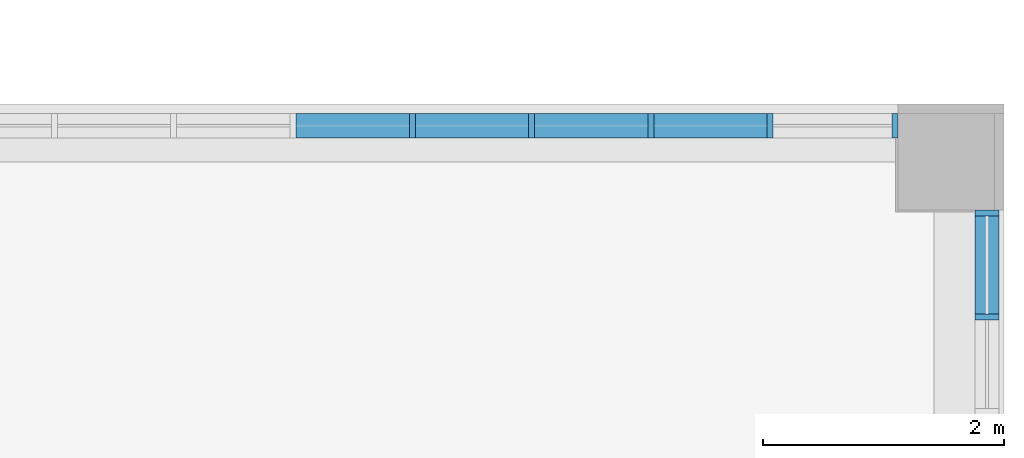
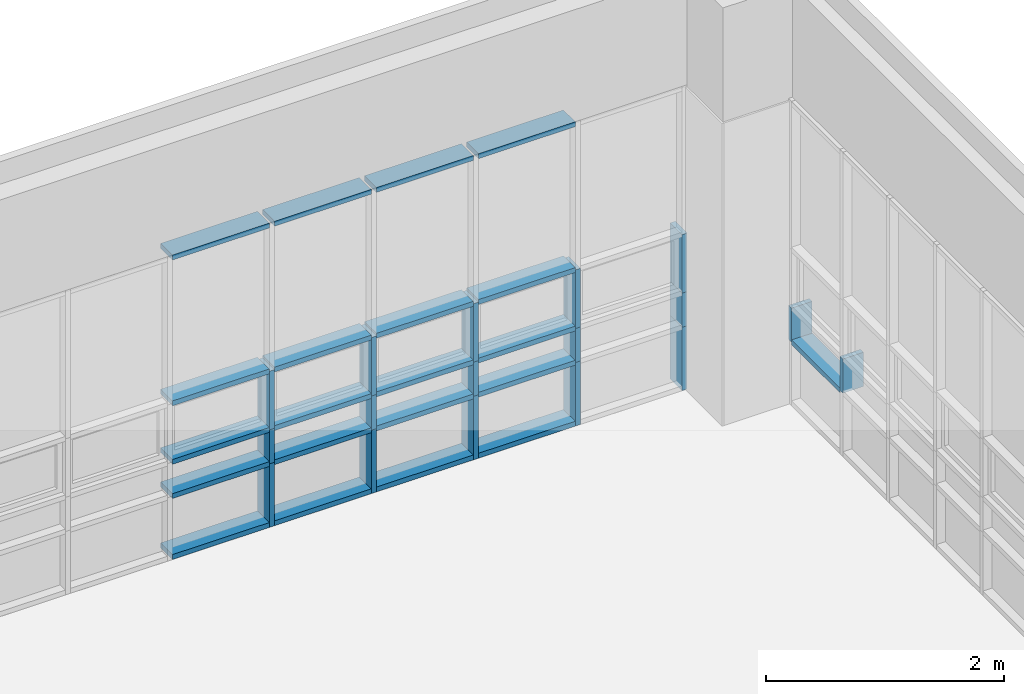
# One storey, part 28 of 74: 38 members, 2 elements without a shape of their own.
"""IFC2X3 building model written with IfcOpenShell, lengths in millimetres."""

from ifc_helpers import new_model, entity, si_unit, converted_unit, derived_unit, direction, frame, origin, origin_2d_with_axis, place, context, subcontext, project, spatial, rectangle, extrude, source, transform, mapped, material, type_object, type_shapes, element, aggregate, save


model = new_model("IFC2X3")

# Units and contexts
model_context = context("Model", 3, precision=0.01, world=origin(), true_north=direction((6.123031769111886e-17, 1.0)))
body_context = subcontext(model_context, "Body", "Model", "MODEL_VIEW")
ifc_project = project(units=[si_unit("LENGTHUNIT", "METRE", prefix="MILLI"), si_unit("AREAUNIT", "SQUARE_METRE"), si_unit("VOLUMEUNIT", "CUBIC_METRE"), converted_unit("PLANEANGLEUNIT", "DEGREE", entity("IfcRatioMeasure", 0.017453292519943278), si_unit("PLANEANGLEUNIT", "RADIAN"), dimensions=[0, 0, 0, 0, 0, 0, 0]), si_unit("MASSUNIT", "GRAM", prefix="KILO"), derived_unit("MASSDENSITYUNIT", [(si_unit("MASSUNIT", "GRAM", prefix="KILO"), 1), (si_unit("LENGTHUNIT", "METRE"), -3)]), derived_unit("MOMENTOFINERTIAUNIT", [(si_unit("LENGTHUNIT", "METRE"), 4)]), si_unit("TIMEUNIT", "SECOND"), si_unit("FREQUENCYUNIT", "HERTZ"), si_unit("THERMODYNAMICTEMPERATUREUNIT", "DEGREE_CELSIUS"), derived_unit("THERMALTRANSMITTANCEUNIT", [(si_unit("MASSUNIT", "GRAM", prefix="KILO"), 1), (si_unit("THERMODYNAMICTEMPERATUREUNIT", "KELVIN"), -1), (si_unit("TIMEUNIT", "SECOND"), -3)]), derived_unit("VOLUMETRICFLOWRATEUNIT", [(si_unit("LENGTHUNIT", "METRE"), 3), (si_unit("TIMEUNIT", "SECOND"), -1)]), derived_unit("MASSFLOWRATEUNIT", [(si_unit("MASSUNIT", "GRAM", prefix="KILO"), 1), (si_unit("TIMEUNIT", "SECOND"), -1)]), derived_unit("ROTATIONALFREQUENCYUNIT", [(si_unit("TIMEUNIT", "SECOND"), -1)]), si_unit("ELECTRICCURRENTUNIT", "AMPERE"), si_unit("ELECTRICVOLTAGEUNIT", "VOLT"), si_unit("POWERUNIT", "WATT"), si_unit("FORCEUNIT", "NEWTON", prefix="KILO"), si_unit("ILLUMINANCEUNIT", "LUX"), si_unit("LUMINOUSFLUXUNIT", "LUMEN"), si_unit("LUMINOUSINTENSITYUNIT", "CANDELA"), derived_unit("USERDEFINED", [(si_unit("MASSUNIT", "GRAM", prefix="KILO"), -1), (si_unit("LENGTHUNIT", "METRE"), -2), (si_unit("TIMEUNIT", "SECOND"), 3), (si_unit("LUMINOUSFLUXUNIT", "LUMEN"), 1)]), derived_unit("SOUNDPOWERUNIT", [(si_unit("MASSUNIT", "GRAM", prefix="KILO"), 1), (si_unit("LENGTHUNIT", "METRE"), 2), (si_unit("TIMEUNIT", "SECOND"), -3)]), derived_unit("SOUNDPRESSUREUNIT", [(si_unit("MASSUNIT", "GRAM", prefix="KILO"), 1), (si_unit("LENGTHUNIT", "METRE"), -1), (si_unit("TIMEUNIT", "SECOND"), -2)]), derived_unit("LINEARVELOCITYUNIT", [(si_unit("LENGTHUNIT", "METRE"), 1), (si_unit("TIMEUNIT", "SECOND"), -1)]), si_unit("PRESSUREUNIT", "PASCAL"), derived_unit("USERDEFINED", [(si_unit("LENGTHUNIT", "METRE"), -2), (si_unit("MASSUNIT", "GRAM", prefix="KILO"), 1), (si_unit("TIMEUNIT", "SECOND"), -2)]), derived_unit("LINEARFORCEUNIT", [(si_unit("MASSUNIT", "GRAM", prefix="KILO"), 1), (si_unit("LENGTHUNIT", "METRE"), 1), (si_unit("TIMEUNIT", "SECOND"), -2), (si_unit("LENGTHUNIT", "METRE"), -1)]), derived_unit("PLANARFORCEUNIT", [(si_unit("MASSUNIT", "GRAM", prefix="KILO"), 1), (si_unit("LENGTHUNIT", "METRE"), 1), (si_unit("TIMEUNIT", "SECOND"), -2), (si_unit("LENGTHUNIT", "METRE"), -2)])], contexts=[model_context])

# Site, building, storey
site_placement = place(None, frame((-14167.972527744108, -657.2125860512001, 0.0)))
site = spatial("IfcSite", under=ifc_project, at=site_placement, Name="Default", CompositionType="ELEMENT")
building_placement = place(site_placement, origin())
building = spatial("IfcBuilding", under=site, at=building_placement, Name="Sample Building", CompositionType="ELEMENT")
storey_placement = place(building_placement, frame((0.0, 0.0, 4800.0)))
storey = spatial("IfcBuildingStorey", under=building, at=storey_placement, Name="지상 2층", CompositionType="ELEMENT", Elevation=4800.000000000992)

# Curtain wall, members
curtain_wall_type = type_object("IfcCurtainWallType", Name="커튼월:CW112-스테인리스 스틸 커튼월", PredefinedType="NOTDEFINED")
curtain_wall_1_placement = place(storey_placement, frame((0.0, 0.0, -4800.0)))
curtain_wall_1 = element("IfcCurtainWall", 1, at=curtain_wall_1_placement, inside=storey, type_object=curtain_wall_type, Name="커튼월:CW112-스테인리스 스틸 커튼월", ObjectType="커튼월:CW112-스테인리스 스틸 커튼월")
ifc_material = material(Name="<Unnamed>")
member_type_1 = type_object("IfcMemberType", Name="직사각형 멀리언:CW200-직사각형 멀리언 50x200mm", PredefinedType="MULLION", material=ifc_material)
shared_shape_1 = source(origin(), body_context, "Body", "SweptSolid", [
    extrude(rectangle(XDim=200.0, YDim=50.0, at=origin_2d_with_axis()), frame((0.0, 0.0, -650.0), z_axis=(0.0, 0.0, 1.0), x_axis=(0.0, -1.0, 0.0)), (0.0, 0.0, 1.0), 650.0000000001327),
])
type_shapes(member_type_1, [shared_shape_1])
member_1_placement = place(curtain_wall_1_placement, frame((49608.65776964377, 29157.212295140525, 4880.0), z_axis=(0.0, 0.0, -1.0), x_axis=(-1.0, 0.0, 0.0)))
member_1 = element("IfcMember", 2, at=member_1_placement, type_object=member_type_1, material=ifc_material, Name="직사각형 멀리언:CW200-직사각형 멀리언 50x200mm", ObjectType="직사각형 멀리언:CW200-직사각형 멀리언 50x200mm", context=body_context, shape_type="MappedRepresentation", body=[
    mapped(shared_shape_1, transform((0.0, 0.0, 0.0), scale=1.0)),
])
member_2_placement = place(curtain_wall_1_placement, frame((48619.768880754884, 29157.212295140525, 4880.0), z_axis=(0.0, 0.0, -1.0), x_axis=(-1.0, 0.0, 0.0)))
member_2 = element("IfcMember", 3, at=member_2_placement, type_object=member_type_1, material=ifc_material, Name="직사각형 멀리언:CW200-직사각형 멀리언 50x200mm", ObjectType="직사각형 멀리언:CW200-직사각형 멀리언 50x200mm", context=body_context, shape_type="MappedRepresentation", body=[
    mapped(shared_shape_1, transform((0.0, 0.0, 0.0), scale=1.0)),
])
member_3_placement = place(curtain_wall_1_placement, frame((47630.87999186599, 29157.21229514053, 4880.0), z_axis=(0.0, 0.0, -1.0), x_axis=(-1.0, 0.0, 0.0)))
member_3 = element("IfcMember", 4, at=member_3_placement, type_object=member_type_1, material=ifc_material, Name="직사각형 멀리언:CW200-직사각형 멀리언 50x200mm", ObjectType="직사각형 멀리언:CW200-직사각형 멀리언 50x200mm", context=body_context, shape_type="MappedRepresentation", body=[
    mapped(shared_shape_1, transform((0.0, 0.0, 0.0), scale=1.0)),
])
member_4_placement = place(curtain_wall_1_placement, frame((46641.99110297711, 29157.212295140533, 4880.0), z_axis=(0.0, 0.0, -1.0), x_axis=(-1.0, 0.0, 0.0)))
member_4 = element("IfcMember", 5, at=member_4_placement, type_object=member_type_1, material=ifc_material, Name="직사각형 멀리언:CW200-직사각형 멀리언 50x200mm", ObjectType="직사각형 멀리언:CW200-직사각형 멀리언 50x200mm", context=body_context, shape_type="MappedRepresentation", body=[
    mapped(shared_shape_1, transform((0.0, 0.0, 0.0), scale=1.0)),
])
member_type_2 = type_object("IfcMemberType", Name="직사각형 멀리언:CW200-직사각형 멀리언 50x200mm", PredefinedType="MULLION", material=ifc_material)
shared_shape_2 = source(origin(), body_context, "Body", "SweptSolid", [
    extrude(rectangle(XDim=200.0, YDim=50.0, at=origin_2d_with_axis()), frame((-25.0, 0.0, -600.0), z_axis=(0.0, 0.0, 1.0), x_axis=(0.0, -1.0, 0.0)), (0.0, 0.0, 1.0), 600.0),
])
type_shapes(member_type_2, [shared_shape_2])
member_5_placement = place(curtain_wall_1_placement, frame((50667.981214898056, 29157.212295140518, 6480.0)))
member_5 = element("IfcMember", 6, at=member_5_placement, type_object=member_type_2, material=ifc_material, Name="직사각형 멀리언:CW200-직사각형 멀리언 50x200mm", ObjectType="직사각형 멀리언:CW200-직사각형 멀리언 50x200mm", context=body_context, shape_type="MappedRepresentation", body=[
    mapped(shared_shape_2, transform((0.0, 0.0, 0.0), scale=1.0)),
])
member_type_3 = type_object("IfcMemberType", Name="직사각형 멀리언:CW200-직사각형 멀리언 50x200mm", PredefinedType="MULLION", material=ifc_material)
shared_shape_3 = source(origin(), body_context, "Body", "SweptSolid", [
    extrude(rectangle(XDim=200.0, YDim=50.0, at=origin_2d_with_axis()), frame((-25.0, 0.0, -350.0), z_axis=(0.0, 0.0, 1.0), x_axis=(0.0, -1.0, 0.0)), (0.0, 0.0, 1.0), 349.9999999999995),
])
type_shapes(member_type_3, [shared_shape_3])
member_6_placement = place(curtain_wall_1_placement, frame((50667.981214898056, 29157.212295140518, 5880.0)))
member_6 = element("IfcMember", 7, at=member_6_placement, type_object=member_type_3, material=ifc_material, Name="직사각형 멀리언:CW200-직사각형 멀리언 50x200mm", ObjectType="직사각형 멀리언:CW200-직사각형 멀리언 50x200mm", context=body_context, shape_type="MappedRepresentation", body=[
    mapped(shared_shape_3, transform((0.0, 0.0, 0.0), scale=1.0)),
])
member_type_4 = type_object("IfcMemberType", Name="직사각형 멀리언:CW200-직사각형 멀리언 50x200mm", PredefinedType="MULLION", material=ifc_material)
shared_shape_4 = source(origin(), body_context, "Body", "SweptSolid", [
    extrude(rectangle(XDim=200.0, YDim=50.0, at=origin_2d_with_axis()), frame((0.0, 0.0, -600.0), z_axis=(0.0, 0.0, 1.0), x_axis=(0.0, -1.0, 0.0)), (0.0, 0.0, 1.0), 600.0),
])
type_shapes(member_type_4, [shared_shape_4])
member_7_placement = place(curtain_wall_1_placement, frame((49608.65776964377, 29157.212295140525, 5880.0), z_axis=(0.0, 0.0, -1.0), x_axis=(-1.0, 0.0, 0.0)))
member_7 = element("IfcMember", 8, at=member_7_placement, type_object=member_type_4, material=ifc_material, Name="직사각형 멀리언:CW200-직사각형 멀리언 50x200mm", ObjectType="직사각형 멀리언:CW200-직사각형 멀리언 50x200mm", context=body_context, shape_type="MappedRepresentation", body=[
    mapped(shared_shape_4, transform((0.0, 0.0, 0.0), scale=1.0)),
])
member_8_placement = place(curtain_wall_1_placement, frame((48619.768880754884, 29157.212295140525, 5880.0), z_axis=(0.0, 0.0, -1.0), x_axis=(-1.0, 0.0, 0.0)))
member_8 = element("IfcMember", 9, at=member_8_placement, type_object=member_type_4, material=ifc_material, Name="직사각형 멀리언:CW200-직사각형 멀리언 50x200mm", ObjectType="직사각형 멀리언:CW200-직사각형 멀리언 50x200mm", context=body_context, shape_type="MappedRepresentation", body=[
    mapped(shared_shape_4, transform((0.0, 0.0, 0.0), scale=1.0)),
])
member_9_placement = place(curtain_wall_1_placement, frame((47630.87999186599, 29157.21229514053, 5880.0), z_axis=(0.0, 0.0, -1.0), x_axis=(-1.0, 0.0, 0.0)))
member_9 = element("IfcMember", 10, at=member_9_placement, type_object=member_type_4, material=ifc_material, Name="직사각형 멀리언:CW200-직사각형 멀리언 50x200mm", ObjectType="직사각형 멀리언:CW200-직사각형 멀리언 50x200mm", context=body_context, shape_type="MappedRepresentation", body=[
    mapped(shared_shape_4, transform((0.0, 0.0, 0.0), scale=1.0)),
])
member_10_placement = place(curtain_wall_1_placement, frame((46641.99110297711, 29157.212295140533, 5880.0), z_axis=(0.0, 0.0, -1.0), x_axis=(-1.0, 0.0, 0.0)))
member_10 = element("IfcMember", 11, at=member_10_placement, type_object=member_type_4, material=ifc_material, Name="직사각형 멀리언:CW200-직사각형 멀리언 50x200mm", ObjectType="직사각형 멀리언:CW200-직사각형 멀리언 50x200mm", context=body_context, shape_type="MappedRepresentation", body=[
    mapped(shared_shape_4, transform((0.0, 0.0, 0.0), scale=1.0)),
])

# Curtain wall, member
curtain_wall_2_placement = place(storey_placement, frame((0.0, 0.0, -4800.0)))
curtain_wall_2 = element("IfcCurtainWall", 12, at=curtain_wall_2_placement, inside=storey, type_object=curtain_wall_type, Name="커튼월:CW112-스테인리스 스틸 커튼월", ObjectType="커튼월:CW112-스테인리스 스틸 커튼월")
member_type_5 = type_object("IfcMemberType", Name="직사각형 멀리언:CW200-직사각형 멀리언 50x200mm", PredefinedType="MULLION", material=ifc_material)
shared_shape_5 = source(origin(), body_context, "Body", "SweptSolid", [
    extrude(rectangle(XDim=200.0, YDim=50.0, at=origin_2d_with_axis()), frame((-25.0, 0.0, -350.0), z_axis=(0.0, 0.0, 1.0), x_axis=(0.0, -1.0, 0.0)), (0.0, 0.0, 1.0), 349.9999999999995),
])
type_shapes(member_type_5, [shared_shape_5])
member_11_placement = place(curtain_wall_2_placement, frame((51405.46382893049, 28457.212704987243, 5530.0), z_axis=(0.0, 0.0, -1.0), x_axis=(0.0, 1.0, 0.0)))
member_11 = element("IfcMember", 13, at=member_11_placement, type_object=member_type_5, material=ifc_material, Name="직사각형 멀리언:CW200-직사각형 멀리언 50x200mm", ObjectType="직사각형 멀리언:CW200-직사각형 멀리언 50x200mm", context=body_context, shape_type="MappedRepresentation", body=[
    mapped(shared_shape_5, transform((0.0, 0.0, 0.0), scale=1.0)),
])

# Member
member_type_6 = type_object("IfcMemberType", Name="직사각형 멀리언:CW200-직사각형 멀리언 50x200mm", PredefinedType="MULLION", material=ifc_material)
shared_shape_6 = source(origin(), body_context, "Body", "SweptSolid", [
    extrude(rectangle(XDim=200.0, YDim=50.0, at=origin_2d_with_axis()), frame((-25.0, 0.0, -650.0), z_axis=(0.0, 0.0, 1.0), x_axis=(0.0, -1.0, 0.0)), (0.0, 0.0, 1.0), 650.0000000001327),
])
type_shapes(member_type_6, [shared_shape_6])
member_12_placement = place(curtain_wall_1_placement, frame((50667.981214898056, 29157.212295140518, 5530.0)))
member_12 = element("IfcMember", 14, at=member_12_placement, type_object=member_type_6, material=ifc_material, Name="직사각형 멀리언:CW200-직사각형 멀리언 50x200mm", ObjectType="직사각형 멀리언:CW200-직사각형 멀리언 50x200mm", context=body_context, shape_type="MappedRepresentation", body=[
    mapped(shared_shape_6, transform((0.0, 0.0, 0.0), scale=1.0)),
])

member_type_7 = type_object("IfcMemberType", Name="직사각형 멀리언:CW200-직사각형 멀리언 50x200mm", PredefinedType="MULLION", material=ifc_material)
shared_shape_7 = source(origin(), body_context, "Body", "SweptSolid", [
    extrude(rectangle(XDim=200.0, YDim=50.0, at=origin_2d_with_axis()), frame((0.0, 0.0, -350.0), z_axis=(0.0, 0.0, 1.0), x_axis=(0.0, -1.0, 0.0)), (0.0, 0.0, 1.0), 349.9999999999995),
])
type_shapes(member_type_7, [shared_shape_7])
member_13_placement = place(curtain_wall_2_placement, frame((51405.46382893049, 27572.21227523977, 5530.0), z_axis=(0.0, 0.0, -1.0), x_axis=(0.0, 1.0, 0.0)))
member_13 = element("IfcMember", 15, at=member_13_placement, type_object=member_type_7, material=ifc_material, Name="직사각형 멀리언:CW200-직사각형 멀리언 50x200mm", ObjectType="직사각형 멀리언:CW200-직사각형 멀리언 50x200mm", context=body_context, shape_type="MappedRepresentation", body=[
    mapped(shared_shape_7, transform((0.0, 0.0, 0.0), scale=1.0)),
])

member_14_placement = place(curtain_wall_1_placement, frame((49608.65776964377, 29157.212295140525, 5530.0), z_axis=(0.0, 0.0, -1.0), x_axis=(-1.0, 0.0, 0.0)))
member_14 = element("IfcMember", 16, at=member_14_placement, type_object=member_type_7, material=ifc_material, Name="직사각형 멀리언:CW200-직사각형 멀리언 50x200mm", ObjectType="직사각형 멀리언:CW200-직사각형 멀리언 50x200mm", context=body_context, shape_type="MappedRepresentation", body=[
    mapped(shared_shape_7, transform((0.0, 0.0, 0.0), scale=1.0)),
])

member_15_placement = place(curtain_wall_1_placement, frame((48619.768880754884, 29157.212295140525, 5530.0), z_axis=(0.0, 0.0, -1.0), x_axis=(-1.0, 0.0, 0.0)))
member_15 = element("IfcMember", 17, at=member_15_placement, type_object=member_type_7, material=ifc_material, Name="직사각형 멀리언:CW200-직사각형 멀리언 50x200mm", ObjectType="직사각형 멀리언:CW200-직사각형 멀리언 50x200mm", context=body_context, shape_type="MappedRepresentation", body=[
    mapped(shared_shape_7, transform((0.0, 0.0, 0.0), scale=1.0)),
])

member_16_placement = place(curtain_wall_1_placement, frame((47630.87999186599, 29157.21229514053, 5530.0), z_axis=(0.0, 0.0, -1.0), x_axis=(-1.0, 0.0, 0.0)))
member_16 = element("IfcMember", 18, at=member_16_placement, type_object=member_type_7, material=ifc_material, Name="직사각형 멀리언:CW200-직사각형 멀리언 50x200mm", ObjectType="직사각형 멀리언:CW200-직사각형 멀리언 50x200mm", context=body_context, shape_type="MappedRepresentation", body=[
    mapped(shared_shape_7, transform((0.0, 0.0, 0.0), scale=1.0)),
])

member_17_placement = place(curtain_wall_1_placement, frame((46641.99110297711, 29157.212295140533, 5530.0), z_axis=(0.0, 0.0, -1.0), x_axis=(-1.0, 0.0, 0.0)))
member_17 = element("IfcMember", 19, at=member_17_placement, type_object=member_type_7, material=ifc_material, Name="직사각형 멀리언:CW200-직사각형 멀리언 50x200mm", ObjectType="직사각형 멀리언:CW200-직사각형 멀리언 50x200mm", context=body_context, shape_type="MappedRepresentation", body=[
    mapped(shared_shape_7, transform((0.0, 0.0, 0.0), scale=1.0)),
])

member_type_8 = type_object("IfcMemberType", Name="직사각형 멀리언:CW200-직사각형 멀리언 50x200mm", PredefinedType="MULLION", material=ifc_material)
shared_shape_8 = source(origin(), body_context, "Body", "SweptSolid", [
    extrude(rectangle(XDim=200.0, YDim=50.0, at=origin_2d_with_axis()), frame((0.0, 0.0, -810.0004297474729), z_axis=(0.0, 0.0, 1.0), x_axis=(0.0, -1.0, 0.0)), (0.0, 0.0, 1.0), 810.0004297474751),
])
type_shapes(member_type_8, [shared_shape_8])
member_18_placement = place(curtain_wall_2_placement, frame((51405.46382893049, 28407.212704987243, 5530.0), z_axis=(0.0, 1.0, 0.0), x_axis=(0.0, 0.0, 1.0)))
member_18 = element("IfcMember", 20, at=member_18_placement, type_object=member_type_8, material=ifc_material, Name="직사각형 멀리언:CW200-직사각형 멀리언 50x200mm", ObjectType="직사각형 멀리언:CW200-직사각형 멀리언 50x200mm", context=body_context, shape_type="MappedRepresentation", body=[
    mapped(shared_shape_8, transform((0.0, 0.0, 0.0), scale=1.0)),
])

aggregate(curtain_wall_2, [member_11, member_18, member_13])

member_type_9 = type_object("IfcMemberType", Name="직사각형 멀리언:CW200-직사각형 멀리언 50x200mm", PredefinedType="MULLION", material=ifc_material)
shared_shape_9 = source(origin(), body_context, "Body", "SweptSolid", [
    extrude(rectangle(XDim=200.0, YDim=50.0, at=origin_2d_with_axis()), frame((-25.0, 0.0, -938.8888888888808), z_axis=(0.0, 0.0, 1.0), x_axis=(0.0, -1.0, 0.0)), (0.0, 0.0, 1.0), 938.888888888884),
])
type_shapes(member_type_9, [shared_shape_9])
member_19_placement = place(curtain_wall_1_placement, frame((49583.65776964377, 29157.212295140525, 4880.0), z_axis=(1.0, 0.0, 0.0), x_axis=(0.0, 0.0, -1.0)))
member_19 = element("IfcMember", 21, at=member_19_placement, type_object=member_type_9, material=ifc_material, Name="직사각형 멀리언:CW200-직사각형 멀리언 50x200mm", ObjectType="직사각형 멀리언:CW200-직사각형 멀리언 50x200mm", context=body_context, shape_type="MappedRepresentation", body=[
    mapped(shared_shape_9, transform((0.0, 0.0, 0.0), scale=1.0)),
])

member_20_placement = place(curtain_wall_1_placement, frame((48594.768880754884, 29157.212295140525, 4880.0), z_axis=(1.0, 0.0, 0.0), x_axis=(0.0, 0.0, -1.0)))
member_20 = element("IfcMember", 22, at=member_20_placement, type_object=member_type_9, material=ifc_material, Name="직사각형 멀리언:CW200-직사각형 멀리언 50x200mm", ObjectType="직사각형 멀리언:CW200-직사각형 멀리언 50x200mm", context=body_context, shape_type="MappedRepresentation", body=[
    mapped(shared_shape_9, transform((0.0, 0.0, 0.0), scale=1.0)),
])

member_21_placement = place(curtain_wall_1_placement, frame((47605.87999186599, 29157.21229514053, 4880.0), z_axis=(1.0, 0.0, 0.0), x_axis=(0.0, 0.0, -1.0)))
member_21 = element("IfcMember", 23, at=member_21_placement, type_object=member_type_9, material=ifc_material, Name="직사각형 멀리언:CW200-직사각형 멀리언 50x200mm", ObjectType="직사각형 멀리언:CW200-직사각형 멀리언 50x200mm", context=body_context, shape_type="MappedRepresentation", body=[
    mapped(shared_shape_9, transform((0.0, 0.0, 0.0), scale=1.0)),
])

member_22_placement = place(curtain_wall_1_placement, frame((46616.9911029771, 29157.212295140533, 4880.0), z_axis=(1.0, 0.0, 0.0), x_axis=(0.0, 0.0, -1.0)))
member_22 = element("IfcMember", 24, at=member_22_placement, type_object=member_type_9, material=ifc_material, Name="직사각형 멀리언:CW200-직사각형 멀리언 50x200mm", ObjectType="직사각형 멀리언:CW200-직사각형 멀리언 50x200mm", context=body_context, shape_type="MappedRepresentation", body=[
    mapped(shared_shape_9, transform((0.0, 0.0, 0.0), scale=1.0)),
])

member_type_10 = type_object("IfcMemberType", Name="직사각형 멀리언:CW200-직사각형 멀리언 50x200mm", PredefinedType="MULLION", material=ifc_material)
shared_shape_10 = source(origin(), body_context, "Body", "SweptSolid", [
    extrude(rectangle(XDim=200.0, YDim=50.0, at=origin_2d_with_axis()), frame((0.0, 0.0, -938.8888888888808), z_axis=(0.0, 0.0, 1.0), x_axis=(0.0, -1.0, 0.0)), (0.0, 0.0, 1.0), 938.888888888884),
])
type_shapes(member_type_10, [shared_shape_10])
member_23_placement = place(curtain_wall_1_placement, frame((48644.76888075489, 29157.212295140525, 6480.0), z_axis=(-1.0, 0.0, 0.0), x_axis=(0.0, 0.0, 1.0)))
member_23 = element("IfcMember", 25, at=member_23_placement, type_object=member_type_10, material=ifc_material, Name="직사각형 멀리언:CW200-직사각형 멀리언 50x200mm", ObjectType="직사각형 멀리언:CW200-직사각형 멀리언 50x200mm", context=body_context, shape_type="MappedRepresentation", body=[
    mapped(shared_shape_10, transform((0.0, 0.0, 0.0), scale=1.0)),
])

member_24_placement = place(curtain_wall_1_placement, frame((47655.87999186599, 29157.21229514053, 6480.0), z_axis=(-1.0, 0.0, 0.0), x_axis=(0.0, 0.0, 1.0)))
member_24 = element("IfcMember", 26, at=member_24_placement, type_object=member_type_10, material=ifc_material, Name="직사각형 멀리언:CW200-직사각형 멀리언 50x200mm", ObjectType="직사각형 멀리언:CW200-직사각형 멀리언 50x200mm", context=body_context, shape_type="MappedRepresentation", body=[
    mapped(shared_shape_10, transform((0.0, 0.0, 0.0), scale=1.0)),
])

member_25_placement = place(curtain_wall_1_placement, frame((46666.99110297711, 29157.212295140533, 6480.0), z_axis=(-1.0, 0.0, 0.0), x_axis=(0.0, 0.0, 1.0)))
member_25 = element("IfcMember", 27, at=member_25_placement, type_object=member_type_10, material=ifc_material, Name="직사각형 멀리언:CW200-직사각형 멀리언 50x200mm", ObjectType="직사각형 멀리언:CW200-직사각형 멀리언 50x200mm", context=body_context, shape_type="MappedRepresentation", body=[
    mapped(shared_shape_10, transform((0.0, 0.0, 0.0), scale=1.0)),
])

member_26_placement = place(curtain_wall_1_placement, frame((45678.10221408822, 29157.212295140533, 6480.0), z_axis=(-1.0, 0.0, 0.0), x_axis=(0.0, 0.0, 1.0)))
member_26 = element("IfcMember", 28, at=member_26_placement, type_object=member_type_10, material=ifc_material, Name="직사각형 멀리언:CW200-직사각형 멀리언 50x200mm", ObjectType="직사각형 멀리언:CW200-직사각형 멀리언 50x200mm", context=body_context, shape_type="MappedRepresentation", body=[
    mapped(shared_shape_10, transform((0.0, 0.0, 0.0), scale=1.0)),
])

member_27_placement = place(curtain_wall_1_placement, frame((48644.76888075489, 29157.212295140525, 5880.0), z_axis=(-1.0, 0.0, 0.0), x_axis=(0.0, 0.0, 1.0)))
member_27 = element("IfcMember", 29, at=member_27_placement, type_object=member_type_10, material=ifc_material, Name="직사각형 멀리언:CW200-직사각형 멀리언 50x200mm", ObjectType="직사각형 멀리언:CW200-직사각형 멀리언 50x200mm", context=body_context, shape_type="MappedRepresentation", body=[
    mapped(shared_shape_10, transform((0.0, 0.0, 0.0), scale=1.0)),
])

member_28_placement = place(curtain_wall_1_placement, frame((47655.87999186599, 29157.21229514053, 5880.0), z_axis=(-1.0, 0.0, 0.0), x_axis=(0.0, 0.0, 1.0)))
member_28 = element("IfcMember", 30, at=member_28_placement, type_object=member_type_10, material=ifc_material, Name="직사각형 멀리언:CW200-직사각형 멀리언 50x200mm", ObjectType="직사각형 멀리언:CW200-직사각형 멀리언 50x200mm", context=body_context, shape_type="MappedRepresentation", body=[
    mapped(shared_shape_10, transform((0.0, 0.0, 0.0), scale=1.0)),
])

member_29_placement = place(curtain_wall_1_placement, frame((46666.99110297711, 29157.212295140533, 5880.0), z_axis=(-1.0, 0.0, 0.0), x_axis=(0.0, 0.0, 1.0)))
member_29 = element("IfcMember", 31, at=member_29_placement, type_object=member_type_10, material=ifc_material, Name="직사각형 멀리언:CW200-직사각형 멀리언 50x200mm", ObjectType="직사각형 멀리언:CW200-직사각형 멀리언 50x200mm", context=body_context, shape_type="MappedRepresentation", body=[
    mapped(shared_shape_10, transform((0.0, 0.0, 0.0), scale=1.0)),
])

member_30_placement = place(curtain_wall_1_placement, frame((45678.10221408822, 29157.212295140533, 5880.0), z_axis=(-1.0, 0.0, 0.0), x_axis=(0.0, 0.0, 1.0)))
member_30 = element("IfcMember", 32, at=member_30_placement, type_object=member_type_10, material=ifc_material, Name="직사각형 멀리언:CW200-직사각형 멀리언 50x200mm", ObjectType="직사각형 멀리언:CW200-직사각형 멀리언 50x200mm", context=body_context, shape_type="MappedRepresentation", body=[
    mapped(shared_shape_10, transform((0.0, 0.0, 0.0), scale=1.0)),
])

member_31_placement = place(curtain_wall_1_placement, frame((48644.76888075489, 29157.212295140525, 5530.0), z_axis=(-1.0, 0.0, 0.0), x_axis=(0.0, 0.0, 1.0)))
member_31 = element("IfcMember", 33, at=member_31_placement, type_object=member_type_10, material=ifc_material, Name="직사각형 멀리언:CW200-직사각형 멀리언 50x200mm", ObjectType="직사각형 멀리언:CW200-직사각형 멀리언 50x200mm", context=body_context, shape_type="MappedRepresentation", body=[
    mapped(shared_shape_10, transform((0.0, 0.0, 0.0), scale=1.0)),
])

member_32_placement = place(curtain_wall_1_placement, frame((47655.87999186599, 29157.21229514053, 5530.0), z_axis=(-1.0, 0.0, 0.0), x_axis=(0.0, 0.0, 1.0)))
member_32 = element("IfcMember", 34, at=member_32_placement, type_object=member_type_10, material=ifc_material, Name="직사각형 멀리언:CW200-직사각형 멀리언 50x200mm", ObjectType="직사각형 멀리언:CW200-직사각형 멀리언 50x200mm", context=body_context, shape_type="MappedRepresentation", body=[
    mapped(shared_shape_10, transform((0.0, 0.0, 0.0), scale=1.0)),
])

member_33_placement = place(curtain_wall_1_placement, frame((46666.99110297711, 29157.212295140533, 5530.0), z_axis=(-1.0, 0.0, 0.0), x_axis=(0.0, 0.0, 1.0)))
member_33 = element("IfcMember", 35, at=member_33_placement, type_object=member_type_10, material=ifc_material, Name="직사각형 멀리언:CW200-직사각형 멀리언 50x200mm", ObjectType="직사각형 멀리언:CW200-직사각형 멀리언 50x200mm", context=body_context, shape_type="MappedRepresentation", body=[
    mapped(shared_shape_10, transform((0.0, 0.0, 0.0), scale=1.0)),
])

member_34_placement = place(curtain_wall_1_placement, frame((45678.10221408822, 29157.212295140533, 5530.0), z_axis=(-1.0, 0.0, 0.0), x_axis=(0.0, 0.0, 1.0)))
member_34 = element("IfcMember", 36, at=member_34_placement, type_object=member_type_10, material=ifc_material, Name="직사각형 멀리언:CW200-직사각형 멀리언 50x200mm", ObjectType="직사각형 멀리언:CW200-직사각형 멀리언 50x200mm", context=body_context, shape_type="MappedRepresentation", body=[
    mapped(shared_shape_10, transform((0.0, 0.0, 0.0), scale=1.0)),
])

member_type_11 = type_object("IfcMemberType", Name="직사각형 멀리언:CW200-직사각형 멀리언 50x200mm", PredefinedType="MULLION", material=ifc_material)
shared_shape_11 = source(origin(), body_context, "Body", "SweptSolid", [
    extrude(rectangle(XDim=200.0, YDim=50.0, at=origin_2d_with_axis()), frame((-25.0, 0.0, -938.8888888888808), z_axis=(0.0, 0.0, 1.0), x_axis=(0.0, -1.0, 0.0)), (0.0, 0.0, 1.0), 938.888888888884),
])
type_shapes(member_type_11, [shared_shape_11])
member_35_placement = place(curtain_wall_1_placement, frame((48644.76888075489, 29157.212295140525, 8000.0), z_axis=(-1.0, 0.0, 0.0), x_axis=(0.0, 0.0, 1.0)))
member_35 = element("IfcMember", 37, at=member_35_placement, type_object=member_type_11, material=ifc_material, Name="직사각형 멀리언:CW200-직사각형 멀리언 50x200mm", ObjectType="직사각형 멀리언:CW200-직사각형 멀리언 50x200mm", context=body_context, shape_type="MappedRepresentation", body=[
    mapped(shared_shape_11, transform((0.0, 0.0, 0.0), scale=1.0)),
])

member_36_placement = place(curtain_wall_1_placement, frame((47655.87999186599, 29157.21229514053, 8000.0), z_axis=(-1.0, 0.0, 0.0), x_axis=(0.0, 0.0, 1.0)))
member_36 = element("IfcMember", 38, at=member_36_placement, type_object=member_type_11, material=ifc_material, Name="직사각형 멀리언:CW200-직사각형 멀리언 50x200mm", ObjectType="직사각형 멀리언:CW200-직사각형 멀리언 50x200mm", context=body_context, shape_type="MappedRepresentation", body=[
    mapped(shared_shape_11, transform((0.0, 0.0, 0.0), scale=1.0)),
])

member_37_placement = place(curtain_wall_1_placement, frame((46666.99110297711, 29157.212295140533, 8000.0), z_axis=(-1.0, 0.0, 0.0), x_axis=(0.0, 0.0, 1.0)))
member_37 = element("IfcMember", 39, at=member_37_placement, type_object=member_type_11, material=ifc_material, Name="직사각형 멀리언:CW200-직사각형 멀리언 50x200mm", ObjectType="직사각형 멀리언:CW200-직사각형 멀리언 50x200mm", context=body_context, shape_type="MappedRepresentation", body=[
    mapped(shared_shape_11, transform((0.0, 0.0, 0.0), scale=1.0)),
])

member_38_placement = place(curtain_wall_1_placement, frame((45678.10221408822, 29157.212295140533, 8000.0), z_axis=(-1.0, 0.0, 0.0), x_axis=(0.0, 0.0, 1.0)))
member_38 = element("IfcMember", 40, at=member_38_placement, type_object=member_type_11, material=ifc_material, Name="직사각형 멀리언:CW200-직사각형 멀리언 50x200mm", ObjectType="직사각형 멀리언:CW200-직사각형 멀리언 50x200mm", context=body_context, shape_type="MappedRepresentation", body=[
    mapped(shared_shape_11, transform((0.0, 0.0, 0.0), scale=1.0)),
])

aggregate(curtain_wall_1, [member_19, member_1, member_5, member_23, member_35, member_20, member_24, member_2, member_36, member_21, member_25, member_3, member_37, member_22, member_26, member_4, member_38, member_6, member_27, member_28, member_29, member_30, member_7, member_8, member_9, member_10, member_12, member_31, member_32, member_33, member_34, member_14, member_15, member_16, member_17])

save(model, "model.ifc")
